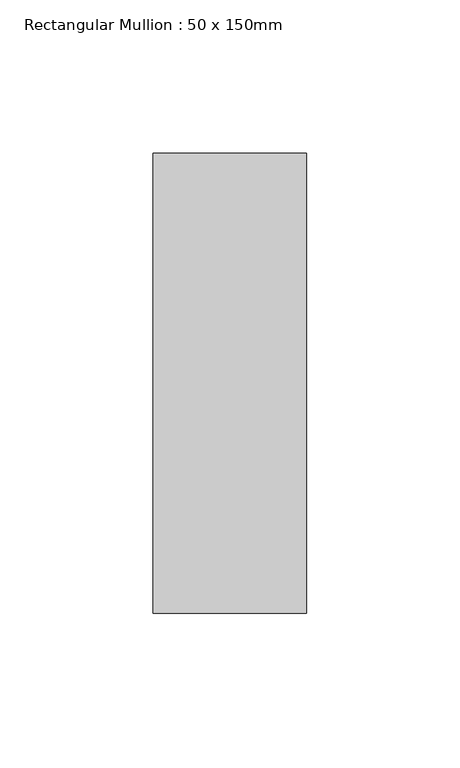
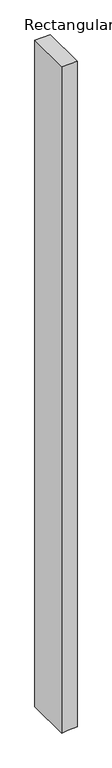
"""IFC4 building model written with IfcOpenShell, lengths in millimetres: member geometry, Rectangular Mullion : 50 x 150mm."""

from ifc_helpers import new_model, si_unit, frame, origin, place, context, project, spatial, polyline, outline, extrude, source, transform, mapped, element, save


def rectangular_mullion_50_x_150mm_ca68afcd(model_context):
    return source(origin(), model_context, "Body", "SweptSolid", [
        extrude(outline(polyline([(0.0, 25.0), (0.0, -25.0), (-2282.3662773, -25.0), (-2280.3555102, -5.0022633), (-2277.3387905, 25.0), (0.0, 25.0)])), frame((0.0, -75.0, 0.0), z_axis=(0.0, 1.0, 0.0), x_axis=(0.0, 0.0, 1.0)), (0.0, 0.0, 1.0), 150.0),
    ])


if __name__ == "__main__":
    model = new_model("IFC4")
    model_context = context("Model", 3, world=origin())
    ifc_project = project(units=[si_unit("LENGTHUNIT", "METRE", prefix="MILLI")], contexts=[model_context])
    site = spatial("IfcSite", under=ifc_project)
    building = spatial("IfcBuilding", under=site)
    placement = place(None, origin())
    rectangular_mullion_50_x_150mm_shape = rectangular_mullion_50_x_150mm_ca68afcd(model_context)
    element("IfcMember", 1, ObjectType="Rectangular Mullion : 50 x 150mm", at=placement, inside=building, context=model_context, shape_type="MappedRepresentation", body=[
        mapped(rectangular_mullion_50_x_150mm_shape, transform((0.0, 0.0, 0.0), x_axis=(1.0, 0.0, 0.0), y_axis=(0.0, 1.0, 0.0), z_axis=(0.0, 0.0, 1.0))),
    ])
    save(model, "model.ifc")
